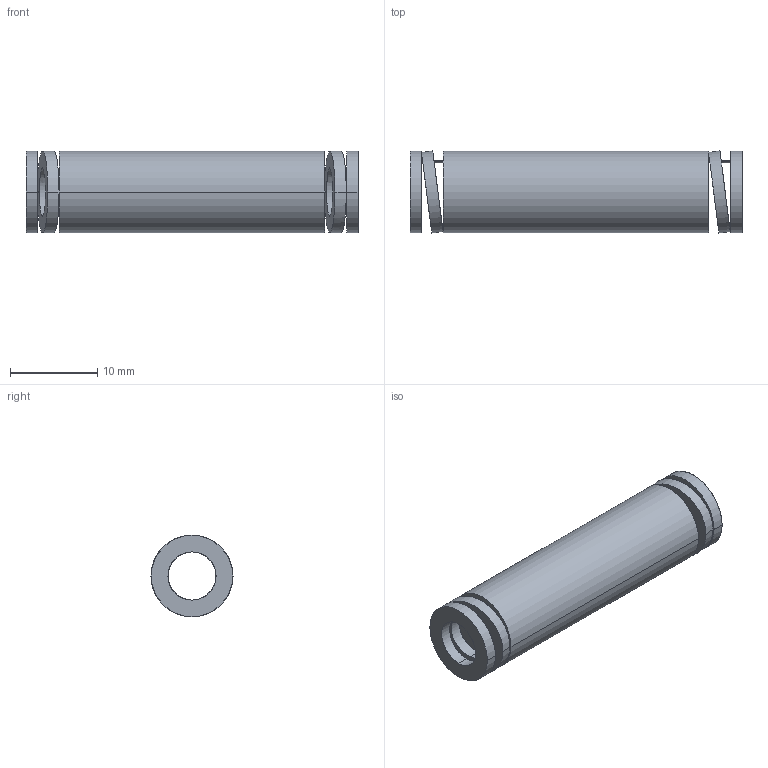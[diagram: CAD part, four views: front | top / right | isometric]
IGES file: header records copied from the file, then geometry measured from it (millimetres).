
Start section: START RECORD GO HERE.
Global section: file name: 392-B10-038.igs; native system: DASSAULT SYSTEMES CATIA V5 R20 - www.3ds.com; preprocessor: CATIA Version 5 Release 20 ; author: Utente; organization: NB04-ASUS; date: 20210812.150238; units: millimetre
Bounding box: 38 x 9.39 x 9.3 mm (x, y, z)
Surface area: 2095.2 mm2 (no closed solid volume)
Topology: 0 solids, 0 shells, 38 faces, 184 edges, 184 vertices
Faces by surface type: revolution 28, plane 10
